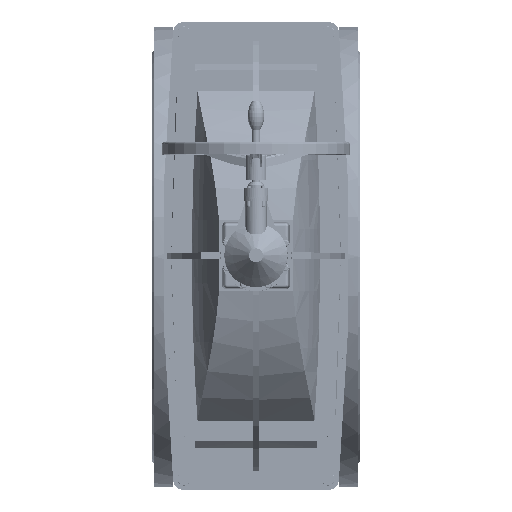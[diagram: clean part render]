
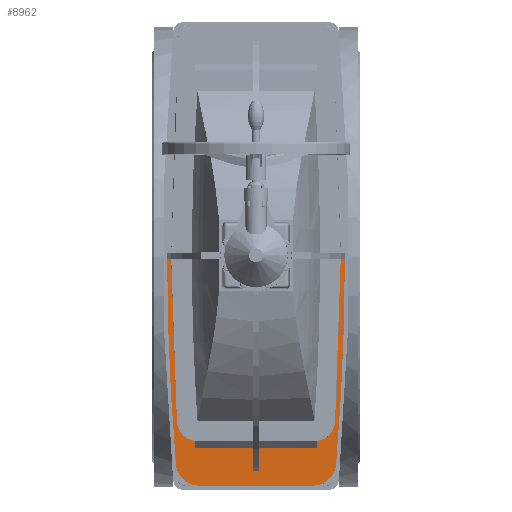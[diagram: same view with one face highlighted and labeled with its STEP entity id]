
A CAD part, top view. The second image highlights one B-rep face of the part: STEP entity #8962.
In plain terms, the highlighted planar face has unit normal (0, 0, 1).
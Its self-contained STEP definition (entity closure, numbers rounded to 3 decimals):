
#8962=ADVANCED_FACE('',(#17630),#17632,.T.);
#17630=FACE_BOUND('',#17631,.T.);
#17631=EDGE_LOOP('',(#31243,#31244,#31245,#31246,#31247,#31248,#31249,#31250,#31251,
#31252,#31253,#31254,#31255,#31256,#31257,#31258));
#17632=PLANE('',#17633);
#17633=AXIS2_PLACEMENT_3D('',#17634,#17635,#17636);
#17634=CARTESIAN_POINT('',(0.,0.,155.));
#17635=DIRECTION('',(0.,0.,1.));
#17636=DIRECTION('',(0.,-1.,0.));
#31243=ORIENTED_EDGE('',*,*,#36882,.F.);
#31244=ORIENTED_EDGE('',*,*,#36908,.F.);
#31245=ORIENTED_EDGE('',*,*,#36972,.T.);
#31246=ORIENTED_EDGE('',*,*,#36973,.T.);
#31247=ORIENTED_EDGE('',*,*,#36974,.T.);
#31248=ORIENTED_EDGE('',*,*,#36975,.T.);
#31249=ORIENTED_EDGE('',*,*,#36976,.T.);
#31250=ORIENTED_EDGE('',*,*,#36839,.F.);
#31251=ORIENTED_EDGE('',*,*,#36791,.F.);
#31252=ORIENTED_EDGE('',*,*,#36862,.T.);
#31253=ORIENTED_EDGE('',*,*,#36867,.T.);
#31254=ORIENTED_EDGE('',*,*,#36779,.F.);
#31255=ORIENTED_EDGE('',*,*,#36977,.F.);
#31256=ORIENTED_EDGE('',*,*,#36763,.F.);
#31257=ORIENTED_EDGE('',*,*,#36873,.T.);
#31258=ORIENTED_EDGE('',*,*,#36899,.T.);
#36763=EDGE_CURVE('',#41717,#41719,#41720,.T.);
#36779=EDGE_CURVE('',#41749,#41751,#41752,.T.);
#36791=EDGE_CURVE('',#41773,#41775,#41776,.T.);
#36839=EDGE_CURVE('',#41775,#41864,#41865,.T.);
#36862=EDGE_CURVE('',#41773,#41903,#41905,.F.);
#36867=EDGE_CURVE('',#41903,#41751,#41910,.T.);
#36873=EDGE_CURVE('',#41717,#41918,#41920,.T.);
#36882=EDGE_CURVE('',#41936,#41938,#41939,.F.);
#36899=EDGE_CURVE('',#41918,#41938,#41967,.T.);
#36908=EDGE_CURVE('',#41981,#41936,#41983,.T.);
#36972=EDGE_CURVE('',#41981,#42080,#42081,.T.);
#36973=EDGE_CURVE('',#42080,#42082,#42083,.T.);
#36974=EDGE_CURVE('',#42082,#42084,#42085,.T.);
#36975=EDGE_CURVE('',#42084,#42086,#42087,.T.);
#36976=EDGE_CURVE('',#42086,#41864,#42088,.T.);
#36977=EDGE_CURVE('',#41719,#41749,#42089,.T.);
#41717=VERTEX_POINT('',#58528);
#41719=VERTEX_POINT('',#58533);
#41720=LINE('',#58534,#58535);
#41749=VERTEX_POINT('',#58597);
#41751=VERTEX_POINT('',#58601);
#41752=LINE('',#58602,#58603);
#41773=VERTEX_POINT('',#58652);
#41775=VERTEX_POINT('',#58656);
#41776=LINE('',#58657,#58658);
#41864=VERTEX_POINT('',#59031);
#41865=LINE('',#59032,#59033);
#41903=VERTEX_POINT('',#59295);
#41905=CIRCLE('',#59316,6027.971);
#41910=LINE('',#59333,#59334);
#41918=VERTEX_POINT('',#59393);
#41920=LINE('',#59414,#59415);
#41936=VERTEX_POINT('',#59451);
#41938=VERTEX_POINT('',#59456);
#41939=LINE('',#59457,#59458);
#41967=CIRCLE('',#59655,6027.971);
#41981=VERTEX_POINT('',#59687);
#41983=LINE('',#59691,#59692);
#42080=VERTEX_POINT('',#59934);
#42081=CIRCLE('',#59935,6078.471);
#42082=VERTEX_POINT('',#59939);
#42083=CIRCLE('',#59940,58.25);
#42084=VERTEX_POINT('',#59944);
#42085=LINE('',#59945,#59946);
#42086=VERTEX_POINT('',#59948);
#42087=CIRCLE('',#59949,58.25);
#42088=CIRCLE('',#59953,6078.471);
#42089=LINE('',#59957,#59958);
#58528=CARTESIAN_POINT('',(-470.682,7.75,155.));
#58533=CARTESIAN_POINT('',(-525.615,7.75,155.));
#58534=CARTESIAN_POINT('',(-470.682,7.75,155.));
#58535=VECTOR('',#58536,1.);
#58536=DIRECTION('',(-1.,0.,0.));
#58597=CARTESIAN_POINT('',(-525.615,-7.75,155.));
#58601=CARTESIAN_POINT('',(-470.682,-7.75,155.));
#58602=CARTESIAN_POINT('',(-525.615,-7.75,155.));
#58603=VECTOR('',#58604,1.);
#58604=DIRECTION('',(1.,0.,0.));
#58652=CARTESIAN_POINT('',(0.,-167.005,155.));
#58656=CARTESIAN_POINT('',(-7.75,-167.005,155.));
#58657=CARTESIAN_POINT('',(0.,-167.005,155.));
#58658=VECTOR('',#58659,1.);
#58659=DIRECTION('',(-1.,0.,0.));
#59031=CARTESIAN_POINT('',(-7.75,-217.501,155.));
#59032=CARTESIAN_POINT('',(-7.75,-167.005,155.));
#59033=VECTOR('',#59034,1.);
#59034=DIRECTION('',(0.,-1.,0.));
#59295=CARTESIAN_POINT('',(-470.682,-148.601,155.));
#59316=AXIS2_PLACEMENT_3D('',#59317,#59318,#59319);
#59317=CARTESIAN_POINT('',(0.,5860.966,155.));
#59318=DIRECTION('',(0.,0.,1.));
#59319=DIRECTION('',(-0.078,-0.997,0.));
#59333=CARTESIAN_POINT('',(-470.682,-148.601,155.));
#59334=VECTOR('',#59335,1.);
#59335=DIRECTION('',(0.,1.,0.));
#59393=CARTESIAN_POINT('',(-470.682,148.601,155.));
#59414=CARTESIAN_POINT('',(-470.682,7.75,155.));
#59415=VECTOR('',#59416,1.);
#59416=DIRECTION('',(0.,1.,0.));
#59451=CARTESIAN_POINT('',(-7.75,167.005,155.));
#59456=CARTESIAN_POINT('',(0.,167.005,155.));
#59457=CARTESIAN_POINT('',(0.,167.005,155.));
#59458=VECTOR('',#59459,1.);
#59459=DIRECTION('',(-1.,0.,0.));
#59655=AXIS2_PLACEMENT_3D('',#59656,#59657,#59658);
#59656=CARTESIAN_POINT('',(0.,-5860.966,155.));
#59657=DIRECTION('',(0.,0.,-1.));
#59658=DIRECTION('',(-0.078,0.997,0.));
#59687=CARTESIAN_POINT('',(-7.75,217.501,155.));
#59691=CARTESIAN_POINT('',(-7.75,217.501,155.));
#59692=VECTOR('',#59693,1.);
#59693=DIRECTION('',(0.,-1.,0.));
#59934=CARTESIAN_POINT('',(-509.129,196.146,155.));
#59935=AXIS2_PLACEMENT_3D('',#59936,#59937,#59938);
#59936=CARTESIAN_POINT('',(0.,-5860.966,155.));
#59937=DIRECTION('',(0.,0.,1.));
#59938=DIRECTION('',(-0.001,1.,0.));
#59939=CARTESIAN_POINT('',(-562.5,138.1,155.));
#59940=AXIS2_PLACEMENT_3D('',#59941,#59942,#59943);
#59941=CARTESIAN_POINT('',(-504.25,138.1,155.));
#59942=DIRECTION('',(0.,0.,1.));
#59943=DIRECTION('',(-0.084,0.996,0.));
#59944=CARTESIAN_POINT('',(-562.5,-138.1,155.));
#59945=CARTESIAN_POINT('',(-562.5,138.1,155.));
#59946=VECTOR('',#59947,1.);
#59947=DIRECTION('',(0.,-1.,0.));
#59948=CARTESIAN_POINT('',(-509.129,-196.146,155.));
#59949=AXIS2_PLACEMENT_3D('',#59950,#59951,#59952);
#59950=CARTESIAN_POINT('',(-504.25,-138.1,155.));
#59951=DIRECTION('',(0.,0.,1.));
#59952=DIRECTION('',(-1.,0.,0.));
#59953=AXIS2_PLACEMENT_3D('',#59954,#59955,#59956);
#59954=CARTESIAN_POINT('',(0.,5860.966,155.));
#59955=DIRECTION('',(0.,0.,1.));
#59956=DIRECTION('',(-0.084,-0.996,0.));
#59957=CARTESIAN_POINT('',(-525.615,7.75,155.));
#59958=VECTOR('',#59959,1.);
#59959=DIRECTION('',(0.,-1.,0.));
